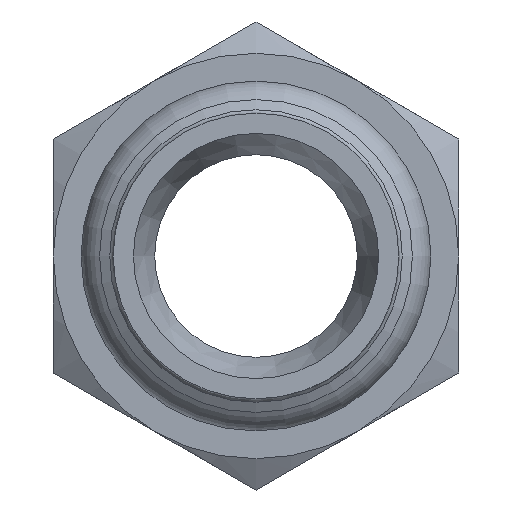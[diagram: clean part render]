
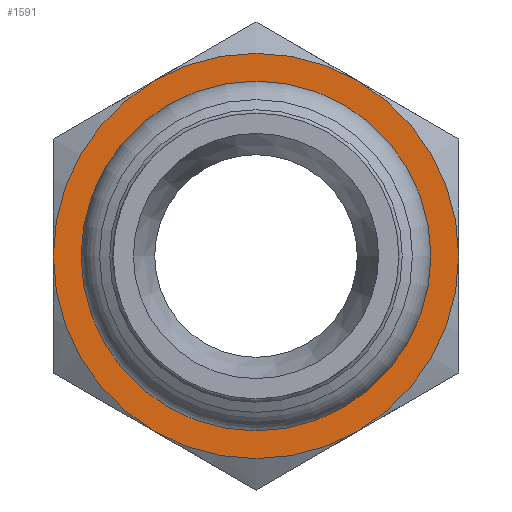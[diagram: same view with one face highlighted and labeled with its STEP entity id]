
A CAD part, left-side view. The second image highlights one B-rep face of the part: STEP entity #1591.
In plain terms, the highlighted planar face has unit normal (-1, 0, 0) as drawn and (0, 0, -1) by its records, which use the part's own axes.
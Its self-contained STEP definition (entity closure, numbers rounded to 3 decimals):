
#781=CARTESIAN_POINT('',(-12.99,7.5,0.));
#782=VERTEX_POINT('',#781);
#796=CARTESIAN_POINT('',(0.,15.,0.));
#797=VERTEX_POINT('',#796);
#811=CARTESIAN_POINT('',(0.0,0.0,0.0));
#812=DIRECTION('',(0.0,0.0,-1.0));
#813=DIRECTION('',(1.0,0.0,0.0));
#814=AXIS2_PLACEMENT_3D('',#811,#812,#813);
#815=CIRCLE('',#814,15.);
#816=EDGE_CURVE('',#782,#797,#815,.T.);
#828=CARTESIAN_POINT('',(-12.99,-7.5,0.));
#829=VERTEX_POINT('',#828);
#856=CARTESIAN_POINT('',(0.0,0.0,0.0));
#857=DIRECTION('',(0.0,0.0,-1.0));
#858=DIRECTION('',(1.0,0.0,0.0));
#859=AXIS2_PLACEMENT_3D('',#856,#857,#858);
#860=CIRCLE('',#859,15.);
#861=EDGE_CURVE('',#829,#782,#860,.T.);
#873=CARTESIAN_POINT('',(0.,-15.,0.));
#874=VERTEX_POINT('',#873);
#901=CARTESIAN_POINT('',(0.0,0.0,0.0));
#902=DIRECTION('',(0.0,0.0,-1.0));
#903=DIRECTION('',(1.0,0.0,0.0));
#904=AXIS2_PLACEMENT_3D('',#901,#902,#903);
#905=CIRCLE('',#904,15.);
#906=EDGE_CURVE('',#874,#829,#905,.T.);
#931=CARTESIAN_POINT('',(12.99,-7.5,0.));
#932=VERTEX_POINT('',#931);
#933=CARTESIAN_POINT('',(0.0,0.0,0.0));
#934=DIRECTION('',(0.0,0.0,-1.0));
#935=DIRECTION('',(1.0,0.0,0.0));
#936=AXIS2_PLACEMENT_3D('',#933,#934,#935);
#937=CIRCLE('',#936,15.);
#938=EDGE_CURVE('',#932,#874,#937,.T.);
#976=CARTESIAN_POINT('',(12.99,7.5,0.));
#977=VERTEX_POINT('',#976);
#978=CARTESIAN_POINT('',(0.0,0.0,0.0));
#979=DIRECTION('',(0.0,0.0,-1.0));
#980=DIRECTION('',(1.0,0.0,0.0));
#981=AXIS2_PLACEMENT_3D('',#978,#979,#980);
#982=CIRCLE('',#981,15.);
#983=EDGE_CURVE('',#977,#932,#982,.T.);
#1021=CARTESIAN_POINT('',(0.0,0.0,0.0));
#1022=DIRECTION('',(0.0,0.0,-1.0));
#1023=DIRECTION('',(1.0,0.0,0.0));
#1024=AXIS2_PLACEMENT_3D('',#1021,#1022,#1023);
#1025=CIRCLE('',#1024,15.);
#1026=EDGE_CURVE('',#797,#977,#1025,.T.);
#1499=CARTESIAN_POINT('',(-10.75,0.0,0.0));
#1500=VERTEX_POINT('',#1499);
#1501=CARTESIAN_POINT('',(0.0,0.0,0.0));
#1502=DIRECTION('',(0.0,0.0,1.0));
#1503=DIRECTION('',(-1.0,0.0,0.0));
#1504=AXIS2_PLACEMENT_3D('',#1501,#1502,#1503);
#1505=CIRCLE('',#1504,10.75);
#1506=EDGE_CURVE('',#1500,#1500,#1505,.T.);
#1575=CARTESIAN_POINT('',(0.,0.,0.0));
#1576=DIRECTION('',(0.0,0.0,1.0));
#1577=DIRECTION('',(1.0,0.0,0.0));
#1578=AXIS2_PLACEMENT_3D('',#1575,#1576,#1577);
#1579=PLANE('',#1578);
#1580=ORIENTED_EDGE('',*,*,#1026,.T.);
#1581=ORIENTED_EDGE('',*,*,#983,.T.);
#1582=ORIENTED_EDGE('',*,*,#938,.T.);
#1583=ORIENTED_EDGE('',*,*,#906,.T.);
#1584=ORIENTED_EDGE('',*,*,#861,.T.);
#1585=ORIENTED_EDGE('',*,*,#816,.T.);
#1586=EDGE_LOOP('',(#1580,#1581,#1582,#1583,#1584,#1585));
#1587=FACE_OUTER_BOUND('',#1586,.T.);
#1588=ORIENTED_EDGE('',*,*,#1506,.T.);
#1589=EDGE_LOOP('',(#1588));
#1590=FACE_BOUND('',#1589,.T.);
#1591=ADVANCED_FACE('',(#1587,#1590),#1579,.F.);
